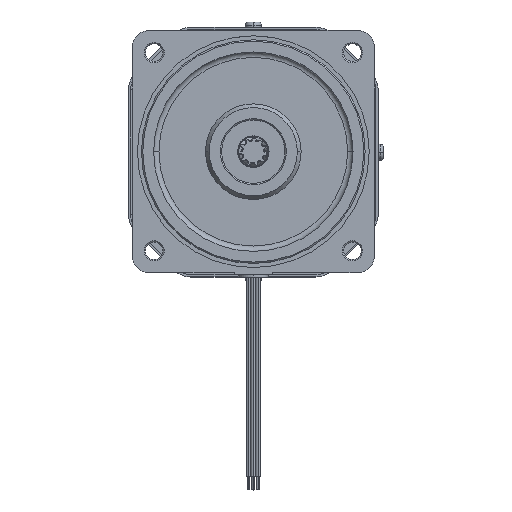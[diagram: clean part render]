
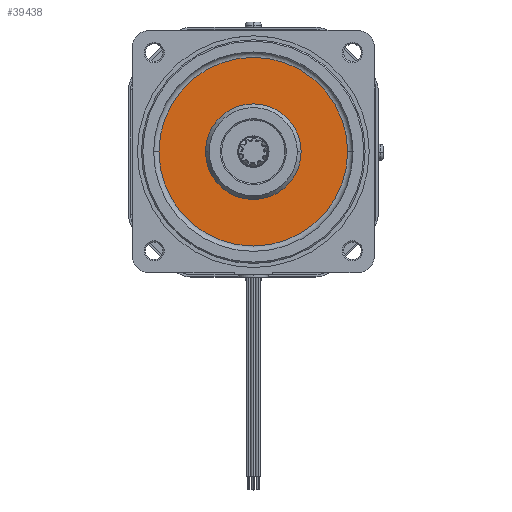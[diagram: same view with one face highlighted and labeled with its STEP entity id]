
A CAD part, top view. The second image highlights one B-rep face of the part: STEP entity #39438.
In plain terms, the highlighted planar face has unit normal (0, 0, 1).
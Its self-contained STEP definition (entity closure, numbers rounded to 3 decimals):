
#28038 = VERTEX_POINT ( 'NONE', #39196 ) ;
#28144 = VERTEX_POINT ( 'NONE', #39896 ) ;
#28262 = EDGE_CURVE ( 'NONE', #28038, #28263, #40795, .T. ) ;
#28263 = VERTEX_POINT ( 'NONE', #40876 ) ;
#28283 = EDGE_CURVE ( 'NONE', #28284, #28144, #41054, .T. ) ;
#28284 = VERTEX_POINT ( 'NONE', #41048 ) ;
#39196 = CARTESIAN_POINT ( 'NONE',  ( 17.75, 0., 0. ) ) ;
#39438 = ADVANCED_FACE ( 'NONE', ( #46067, #46066 ), #46121, .F. ) ;
#39440 = EDGE_LOOP ( 'NONE', ( #39441, #39443 ) ) ;
#39441 = ORIENTED_EDGE ( 'NONE', *, *, #28283, .T. ) ;
#39443 = ORIENTED_EDGE ( 'NONE', *, *, #39445, .T. ) ;
#39444 = EDGE_LOOP ( 'NONE', ( #39446, #39449 ) ) ;
#39445 = EDGE_CURVE ( 'NONE', #28144, #28284, #46120, .T. ) ;
#39446 = ORIENTED_EDGE ( 'NONE', *, *, #39447, .F. ) ;
#39447 = EDGE_CURVE ( 'NONE', #28263, #28038, #46105, .T. ) ;
#39449 = ORIENTED_EDGE ( 'NONE', *, *, #28262, .F. ) ;
#39896 = CARTESIAN_POINT ( 'NONE',  ( 35., 0., 0. ) ) ;
#40795 = CIRCLE ( 'NONE', #40881, 17.75 ) ;
#40876 = CARTESIAN_POINT ( 'NONE',  ( -17.75, 0., 0. ) ) ;
#40877 = DIRECTION ( 'NONE',  ( -1., 0., 0. ) ) ;
#40879 = DIRECTION ( 'NONE',  ( 0., 0., 1. ) ) ;
#40880 = CARTESIAN_POINT ( 'NONE',  ( 0., 0., 0. ) ) ;
#40881 = AXIS2_PLACEMENT_3D ( 'NONE', #40880, #40879, #40877 ) ;
#41048 = CARTESIAN_POINT ( 'NONE',  ( -35., 0., 0. ) ) ;
#41049 = DIRECTION ( 'NONE',  ( -1., 0., 0. ) ) ;
#41051 = DIRECTION ( 'NONE',  ( 0., 0., 1. ) ) ;
#41052 = CARTESIAN_POINT ( 'NONE',  ( 0., 0., 0. ) ) ;
#41053 = AXIS2_PLACEMENT_3D ( 'NONE', #41052, #41051, #41049 ) ;
#41054 = CIRCLE ( 'NONE', #41053, 35. ) ;
#46066 = FACE_BOUND ( 'NONE', #39444, .T. ) ;
#46067 = FACE_OUTER_BOUND ( 'NONE', #39440, .T. ) ;
#46101 = DIRECTION ( 'NONE',  ( -1., 0., 0. ) ) ;
#46102 = DIRECTION ( 'NONE',  ( 0., 0., 1. ) ) ;
#46103 = CARTESIAN_POINT ( 'NONE',  ( 0., 0., 0. ) ) ;
#46104 = AXIS2_PLACEMENT_3D ( 'NONE', #46103, #46102, #46101 ) ;
#46105 = CIRCLE ( 'NONE', #46104, 17.75 ) ;
#46108 = DIRECTION ( 'NONE',  ( -1., 0., 0. ) ) ;
#46110 = DIRECTION ( 'NONE',  ( 0., 0., 1. ) ) ;
#46112 = CARTESIAN_POINT ( 'NONE',  ( 0., 0., 0. ) ) ;
#46113 = AXIS2_PLACEMENT_3D ( 'NONE', #46112, #46110, #46108 ) ;
#46114 = DIRECTION ( 'NONE',  ( -1., 0., 0. ) ) ;
#46115 = DIRECTION ( 'NONE',  ( 0., 0., -1. ) ) ;
#46116 = CARTESIAN_POINT ( 'NONE',  ( -38.5, 38.5, 0. ) ) ;
#46118 = AXIS2_PLACEMENT_3D ( 'NONE', #46116, #46115, #46114 ) ;
#46120 = CIRCLE ( 'NONE', #46113, 35. ) ;
#46121 = PLANE ( 'NONE',  #46118 ) ;
